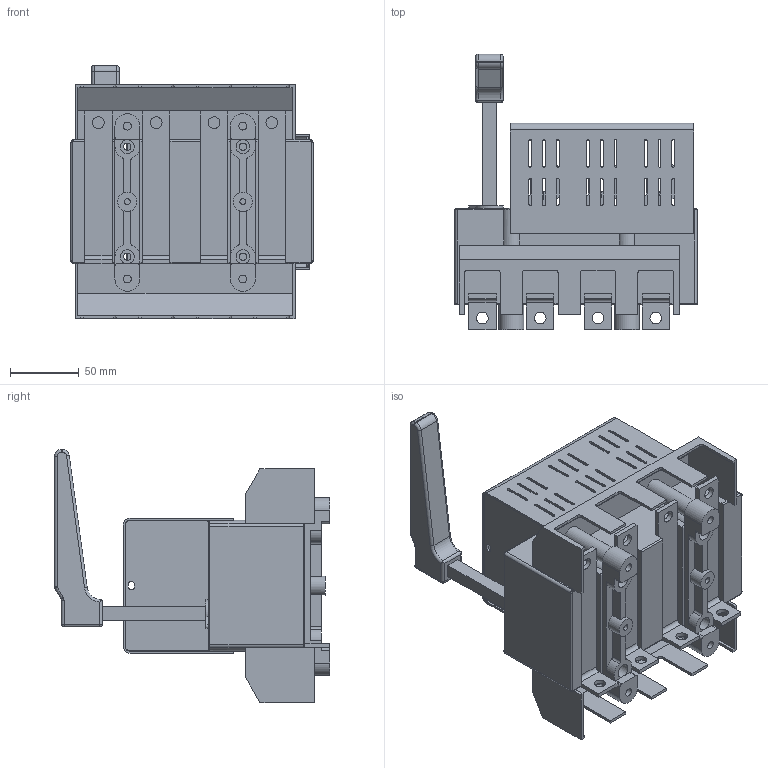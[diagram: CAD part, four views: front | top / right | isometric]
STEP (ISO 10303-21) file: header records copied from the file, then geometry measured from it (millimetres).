
FILE_DESCRIPTION(/* description */ (''),/* implementation_level */ '2;1');
FILE_NAME(/* name */ 'RAB 00 P3 NB-R z oslona zaciskow.stp',/* time_stamp */ '2021-08-19T11:17:24+02:00',/* author */ (''),/* organization */ (''),/* preprocessor_version */ 'ST-DEVELOPER v18.1',/* originating_system */ 'SIEMENS PLM Software NX 1965',/* authorisation */ '');
FILE_SCHEMA (('PROCESS_PLANNING_SCHEMA'));
Length unit declared in the file: millimetre
Products named in the file (1): RAB 00 P3 NB-R z oslona zaciskow
Bounding box: 176 x 200 x 183.9 mm (x, y, z)
Volume: 1357206.2 mm3; surface area: 294457.7 mm2
Topology: 1 solids, 1 shells, 1004 faces, 2881 edges, 1880 vertices
Faces by surface type: plane 616, cylinder 362, torus 12, bspline 8, sphere 6
Full cylindrical faces by diameter (mm): 2.7 x4, 4.3 x2, 5 x6, 5.3 x4, 5.8 x4, 8.5 x8, 10 x12, 13 x4, 14 x2
Entity records: 32910 total; most frequent: CARTESIAN_POINT 6092, ORIENTED_EDGE 5586, DIRECTION 5521, EDGE_CURVE 2793, LINE 1995, VECTOR 1995, VERTEX_POINT 1836, AXIS2_PLACEMENT_3D 1763
